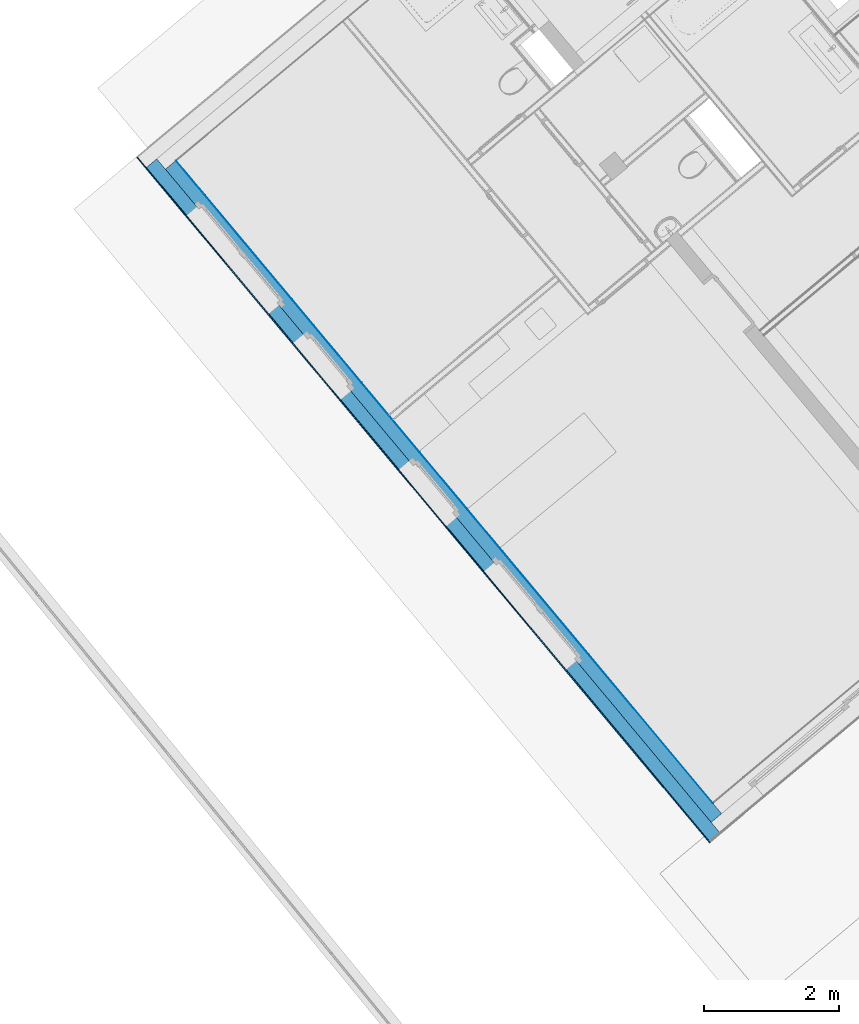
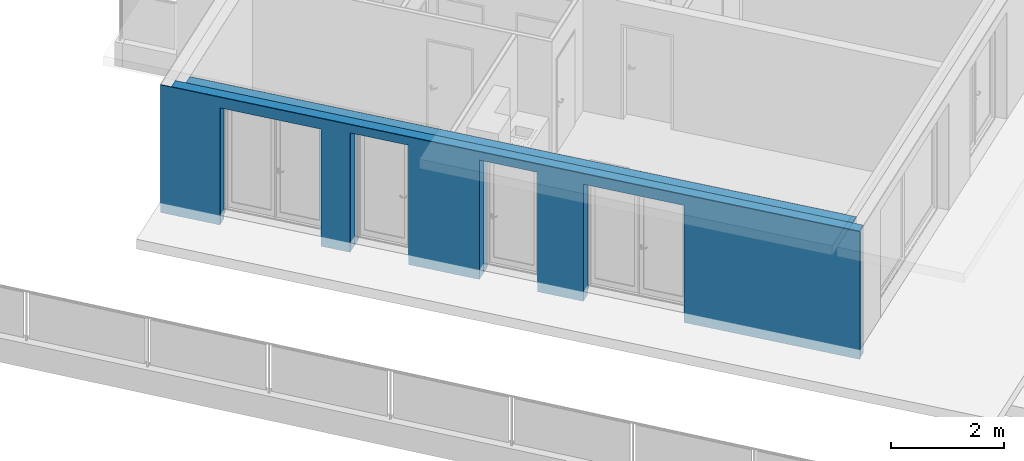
# One storey, part 9 of 67: 4 building element parts, 4 openings, 1 element without a shape of its own.
"""IFC4 building model written with IfcOpenShell, lengths in metres."""

from ifc_helpers import new_model, entity, si_unit, converted_unit, derived_unit, direction, frame, origin_with_axes, place, context, subcontext, project, spatial, polygons, material, type_object, element, aggregate, save


model = new_model("IFC4")

# Units and contexts
model_context = context("Model", 3, precision=1e-05, world=origin_with_axes(), true_north=direction((0.0, 1.0)))
body_context = subcontext(model_context, "Body", "Model", "MODEL_VIEW")
ifc_project = project(units=[si_unit("LENGTHUNIT", "METRE"), si_unit("AREAUNIT", "SQUARE_METRE"), si_unit("VOLUMEUNIT", "CUBIC_METRE"), converted_unit("PLANEANGLEUNIT", "DEGREE", entity("IfcPlaneAngleMeasure", 0.0174532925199), si_unit("PLANEANGLEUNIT", "RADIAN"), dimensions=[0, 0, 0, 0, 0, 0, 0]), converted_unit("TIMEUNIT", "Year", entity("IfcTimeMeasure", 31556926.0), si_unit("TIMEUNIT", "SECOND"), dimensions=[0, 0, 1, 0, 0, 0, 0]), si_unit("MASSUNIT", "GRAM", prefix="KILO"), si_unit("THERMODYNAMICTEMPERATUREUNIT", "DEGREE_CELSIUS"), si_unit("LUMINOUSINTENSITYUNIT", "LUMEN"), si_unit("ENERGYUNIT", "JOULE", prefix="MEGA"), derived_unit("THERMALCONDUCTANCEUNIT", [(si_unit("POWERUNIT", "WATT"), 1), (si_unit("LENGTHUNIT", "METRE"), -1), (si_unit("THERMODYNAMICTEMPERATUREUNIT", "KELVIN"), -1)]), derived_unit("SPECIFICHEATCAPACITYUNIT", [(si_unit("ENERGYUNIT", "JOULE"), 1), (si_unit("MASSUNIT", "GRAM", prefix="KILO"), -1), (si_unit("THERMODYNAMICTEMPERATUREUNIT", "KELVIN"), -1)]), derived_unit("MASSDENSITYUNIT", [(si_unit("MASSUNIT", "GRAM", prefix="KILO"), 1), (si_unit("VOLUMEUNIT", "CUBIC_METRE"), -1)])], contexts=[model_context])

# Site, building, storey
site_placement = place(None, frame((-0.00153261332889, -0.00661245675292, 0.0), z_axis=(0.0, 0.0, 1.0), x_axis=(1.0, 0.0, 0.0)))
site = spatial("IfcSite", under=ifc_project, at=site_placement, Name="Site", CompositionType="ELEMENT")
building_placement = place(site_placement, origin_with_axes())
building = spatial("IfcBuilding", under=site, at=building_placement, Name="Building", CompositionType="ELEMENT")
storey_placement = place(building_placement, frame((0.0, 0.0, -0.22), z_axis=(0.0, 0.0, 1.0), x_axis=(1.0, 0.0, 0.0)))
storey = spatial("IfcBuildingStorey", under=building, at=storey_placement, Name="EG", CompositionType="ELEMENT", Elevation=-0.22)

# Wall, openings, building element parts
wall_type = type_object("IfcWallType", Name="AW EG 420", PredefinedType="NOTDEFINED")
wall_placement = place(storey_placement, frame((-8.68307438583, 19.0183290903, 0.0), z_axis=(0.0, 0.0, 1.0), x_axis=(0.641209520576, -0.767365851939, 0.0)))
wall = element("IfcWall", 1, at=wall_placement, inside=storey, type_object=wall_type, Name="Wand-002", PredefinedType="NOTDEFINED")
opening_1_placement = place(wall_placement, frame((8.93569204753, 0.0, 0.22), z_axis=(0.0, 0.0, 1.0), x_axis=(1.0, 0.0, 0.0)))
element("IfcOpeningElement", 2, at=opening_1_placement, cuts=wall, Name="Tür-002", context=body_context, identifier="Reference", shape_type="Tessellation", body=[
    polygons([(0.95, 0.215, -0.22), (0.95, 0.215, 2.31), (0.95, -6.49731305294, 2.31), (0.95, -6.49731305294, -0.22), (-0.95, 0.215, 2.31), (1.0, 0.215, -0.22), (1.0, 0.215, 2.36), (-1.0, 0.215, 2.36), (-1.0, 0.215, -0.22), (-0.95, 0.215, -0.22), (-0.95, -6.49731305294, 2.31), (-0.95, -6.49731305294, -0.22), (-1.0, 6.91731305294, -0.22), (1.0, 6.91731305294, -0.22), (1.0, 6.91731305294, 2.36), (-1.0, 6.91731305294, 2.36)], [[[1, 2, 3, 4]], [[5, 2, 1, 6, 7, 8, 9, 10]], [[2, 5, 11, 3]], [[11, 12, 4, 3]], [[1, 4, 12, 10, 9, 13, 14, 6]], [[7, 6, 14, 15]], [[8, 7, 15, 16]], [[9, 8, 16, 13]], [[5, 10, 12, 11]], [[15, 14, 13, 16]]], closed=True),
])
opening_2_placement = place(wall_placement, frame((2.08549096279, 0.0, 0.22), z_axis=(0.0, 0.0, 1.0), x_axis=(1.0, 0.0, 0.0)))
element("IfcOpeningElement", 3, at=opening_2_placement, cuts=wall, Name="Tür-002", context=body_context, identifier="Reference", shape_type="Tessellation", body=[
    polygons([(0.95, 0.215, -0.22), (0.95, 0.215, 2.31), (0.95, -6.49731305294, 2.31), (0.95, -6.49731305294, -0.22), (-0.95, 0.215, 2.31), (1.0, 0.215, -0.22), (1.0, 0.215, 2.36), (-1.0, 0.215, 2.36), (-1.0, 0.215, -0.22), (-0.95, 0.215, -0.22), (-0.95, -6.49731305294, 2.31), (-0.95, -6.49731305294, -0.22), (-1.0, 6.91731305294, -0.22), (1.0, 6.91731305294, -0.22), (1.0, 6.91731305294, 2.36), (-1.0, 6.91731305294, 2.36)], [[[1, 2, 3, 4]], [[5, 2, 1, 6, 7, 8, 9, 10]], [[2, 5, 11, 3]], [[11, 12, 4, 3]], [[1, 4, 12, 10, 9, 13, 14, 6]], [[7, 6, 14, 15]], [[8, 7, 15, 16]], [[9, 8, 16, 13]], [[5, 10, 12, 11]], [[15, 14, 13, 16]]], closed=True),
])
opening_3_placement = place(wall_placement, frame((6.57566381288, 0.0, 0.22), z_axis=(0.0, 0.0, 1.0), x_axis=(1.0, 0.0, 0.0)))
element("IfcOpeningElement", 4, at=opening_3_placement, cuts=wall, Name="Tür-001", context=body_context, identifier="Reference", shape_type="Tessellation", body=[
    polygons([(0.55, 0.215, -0.22), (0.55, 0.215, 2.36), (0.55, -6.49731305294, 2.36), (0.55, -6.49731305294, -0.22), (0.55, 6.91731305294, -0.22), (0.55, 6.91731305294, 2.36), (-0.55, 0.215, 2.36), (-0.55, -6.49731305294, 2.36), (-0.55, 6.91731305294, 2.36), (-0.55, -6.49731305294, -0.22), (-0.55, 0.215, -0.22), (-0.55, 6.91731305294, -0.22)], [[[1, 2, 3, 4]], [[2, 1, 5, 6]], [[7, 8, 3, 2, 6, 9]], [[8, 10, 4, 3]], [[1, 4, 10, 11, 12, 5]], [[6, 5, 12, 9]], [[7, 11, 10, 8]], [[11, 7, 9, 12]]], closed=True),
])
opening_4_placement = place(wall_placement, frame((4.13955898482, 0.0, 0.22), z_axis=(0.0, 0.0, 1.0), x_axis=(1.0, 0.0, 0.0)))
element("IfcOpeningElement", 5, at=opening_4_placement, cuts=wall, Name="Tür-001", context=body_context, identifier="Reference", shape_type="Tessellation", body=[
    polygons([(0.55, 0.215, -0.22), (0.55, 0.215, 2.36), (0.55, -6.49731305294, 2.36), (0.55, -6.49731305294, -0.22), (0.55, 6.91731305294, -0.22), (0.55, 6.91731305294, 2.36), (-0.55, 0.215, 2.36), (-0.55, -6.49731305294, 2.36), (-0.55, 6.91731305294, 2.36), (-0.55, -6.49731305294, -0.22), (-0.55, 0.215, -0.22), (-0.55, 6.91731305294, -0.22)], [[[1, 2, 3, 4]], [[2, 1, 5, 6]], [[7, 8, 3, 2, 6, 9]], [[8, 10, 4, 3]], [[1, 4, 10, 11, 12, 5]], [[6, 5, 12, 9]], [[7, 11, 10, 8]], [[11, 7, 9, 12]]], closed=True),
])
ifc_material_1 = material(Name="Zementputz")
building_element_part_1_placement = place(wall_placement, origin_with_axes())
building_element_part_1 = element("IfcBuildingElementPart", 6, at=building_element_part_1_placement, material=ifc_material_1, Name="Zementputz", PredefinedType="NOTDEFINED", context=body_context, shape_type="Tessellation", body=[
    polygons([(3.58955898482, 0.42, 2.58), (3.58955898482, 0.42, 0.0), (3.08549096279, 0.42, 0.0), (3.08549096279, 0.42, 2.58), (1.08549096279, 0.42, 2.58), (1.08549096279, 0.42, 0.0), (0.419999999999, 0.42, 0.0), (0.419999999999, 0.42, 2.76), (12.7874798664, 0.42, 2.76), (12.7874798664, 0.42, 0.0), (9.93569204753, 0.42, 0.0), (9.93569204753, 0.42, 2.58), (7.93569204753, 0.42, 2.58), (7.93569204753, 0.42, 0.0), (7.12566381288, 0.42, 0.0), (7.12566381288, 0.42, 2.58), (6.02566381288, 0.42, 2.58), (6.02566381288, 0.42, 0.0), (4.68955898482, 0.42, 0.0), (4.68955898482, 0.42, 2.58), (3.58955898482, 0.415, 2.58), (3.58955898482, 0.415, 0.0), (3.08549096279, 0.415, 0.0), (3.08549096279, 0.415, 2.58), (1.08549096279, 0.415, 2.58), (1.08549096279, 0.415, 0.0), (0.419999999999, 0.415, 0.0), (0.419999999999, 0.415, 2.76), (12.7874831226, 0.415, 2.76), (12.7874831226, 0.415, 0.0), (9.93569204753, 0.415, 0.0), (9.93569204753, 0.415, 2.58), (7.93569204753, 0.415, 2.58), (7.93569204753, 0.415, 0.0), (7.12566381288, 0.415, 0.0), (7.12566381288, 0.415, 2.58), (6.02566381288, 0.415, 2.58), (6.02566381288, 0.415, 0.0), (4.68955898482, 0.415, 0.0), (4.68955898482, 0.415, 2.58)], [[[1, 2, 3, 4, 5, 6, 7, 8, 9, 10, 11, 12, 13, 14, 15, 16, 17, 18, 19, 20]], [[2, 1, 21, 22]], [[2, 22, 23, 3]], [[23, 24, 4, 3]], [[24, 25, 5, 4]], [[25, 26, 6, 5]], [[27, 7, 6, 26]], [[7, 27, 28, 8]], [[9, 8, 28, 29]], [[10, 9, 29, 30]], [[30, 31, 11, 10]], [[32, 12, 11, 31]], [[33, 13, 12, 32]], [[34, 14, 13, 33]], [[15, 14, 34, 35]], [[15, 35, 36, 16]], [[16, 36, 37, 17]], [[17, 37, 38, 18]], [[39, 19, 18, 38]], [[20, 19, 39, 40]], [[1, 20, 40, 21]], [[40, 39, 38, 37, 36, 35, 34, 33, 32, 31, 30, 29, 28, 27, 26, 25, 24, 23, 22, 21]]], closed=True),
])
ifc_material_2 = material(Name="Stahlbeton Wand")
building_element_part_2_placement = place(wall_placement, origin_with_axes())
building_element_part_2 = element("IfcBuildingElementPart", 7, at=building_element_part_2_placement, material=ifc_material_2, Name="Stahlbeton Wand", PredefinedType="NOTDEFINED", context=body_context, shape_type="Tessellation", body=[
    polygons([(3.58955898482, 0.415, 2.58), (3.58955898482, 0.415, 0.0), (3.08549096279, 0.415, 0.0), (3.08549096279, 0.415, 2.58), (1.08549096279, 0.415, 2.58), (1.08549096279, 0.415, 0.0), (0.414999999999, 0.415, 0.0), (0.414999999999, 0.415, 2.76), (12.987483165, 0.415, 2.76), (12.987483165, 0.415, 0.0), (9.93569204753, 0.415, 0.0), (9.93569204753, 0.415, 2.58), (7.93569204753, 0.415, 2.58), (7.93569204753, 0.415, 0.0), (7.12566381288, 0.415, 0.0), (7.12566381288, 0.415, 2.58), (6.02566381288, 0.415, 2.58), (6.02566381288, 0.415, 0.0), (4.68955898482, 0.415, 0.0), (4.68955898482, 0.415, 2.58), (3.58955898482, 0.215, 2.58), (3.58955898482, 0.215, 0.0), (3.08549096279, 0.215, 0.0), (3.08549096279, 0.215, 2.58), (1.08549096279, 0.215, 2.58), (1.08549096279, 0.215, 0.0), (0.415, 0.215, 0.0), (0.415, 0.215, 2.76), (12.9876134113, 0.215, 2.76), (12.9876134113, 0.215, 0.0), (9.93569204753, 0.215, 0.0), (9.93569204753, 0.215, 2.58), (7.93569204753, 0.215, 2.58), (7.93569204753, 0.215, 0.0), (7.12566381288, 0.215, 0.0), (7.12566381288, 0.215, 2.58), (6.02566381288, 0.215, 2.58), (6.02566381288, 0.215, 0.0), (4.68955898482, 0.215, 0.0), (4.68955898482, 0.215, 2.58)], [[[1, 2, 3, 4, 5, 6, 7, 8, 9, 10, 11, 12, 13, 14, 15, 16, 17, 18, 19, 20]], [[2, 1, 21, 22]], [[2, 22, 23, 3]], [[23, 24, 4, 3]], [[24, 25, 5, 4]], [[25, 26, 6, 5]], [[27, 7, 6, 26]], [[7, 27, 28, 8]], [[9, 8, 28, 29]], [[10, 9, 29, 30]], [[30, 31, 11, 10]], [[32, 12, 11, 31]], [[33, 13, 12, 32]], [[34, 14, 13, 33]], [[15, 14, 34, 35]], [[15, 35, 36, 16]], [[16, 36, 37, 17]], [[17, 37, 38, 18]], [[39, 19, 18, 38]], [[20, 19, 39, 40]], [[1, 20, 40, 21]], [[40, 39, 38, 37, 36, 35, 34, 33, 32, 31, 30, 29, 28, 27, 26, 25, 24, 23, 22, 21]]], closed=True),
])
ifc_material_3 = material(Name="EPS 1")
building_element_part_3_placement = place(wall_placement, origin_with_axes())
building_element_part_3 = element("IfcBuildingElementPart", 8, at=building_element_part_3_placement, material=ifc_material_3, Name="EPS 1", PredefinedType="NOTDEFINED", context=body_context, shape_type="Tessellation", body=[
    polygons([(3.58955898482, 0.215, 2.58), (3.58955898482, 0.215, 0.0), (3.03549096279, 0.215, 0.0), (3.03549096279, 0.215, 2.53), (1.13549096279, 0.215, 2.53), (1.13549096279, 0.215, 0.0), (0.215, 0.215, 0.0), (0.215, 0.215, 2.76), (13.1876134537, 0.215, 2.76), (13.1876134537, 0.215, 0.0), (9.88569204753, 0.215, 0.0), (9.88569204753, 0.215, 2.53), (7.98569204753, 0.215, 2.53), (7.98569204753, 0.215, 0.0), (7.12566381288, 0.215, 0.0), (7.12566381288, 0.215, 2.58), (6.02566381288, 0.215, 2.58), (6.02566381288, 0.215, 0.0), (4.68955898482, 0.215, 0.0), (4.68955898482, 0.215, 2.58), (3.58955898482, 0.015, 2.58), (3.58955898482, 0.015, 0.0), (3.03549096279, 0.015, 0.0), (3.03549096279, 0.015, 2.53), (1.13549096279, 0.015, 2.53), (1.13549096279, 0.015, 0.0), (0.215, 0.015, 0.0), (0.215, 0.015, 2.76), (13.1877437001, 0.015, 2.76), (13.1877437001, 0.015, 0.0), (9.88569204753, 0.015, 0.0), (9.88569204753, 0.015, 2.53), (7.98569204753, 0.015, 2.53), (7.98569204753, 0.015, 0.0), (7.12566381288, 0.015, 0.0), (7.12566381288, 0.015, 2.58), (6.02566381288, 0.015, 2.58), (6.02566381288, 0.015, 0.0), (4.68955898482, 0.015, 0.0), (4.68955898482, 0.015, 2.58)], [[[1, 2, 3, 4, 5, 6, 7, 8, 9, 10, 11, 12, 13, 14, 15, 16, 17, 18, 19, 20]], [[2, 1, 21, 22]], [[2, 22, 23, 3]], [[23, 24, 4, 3]], [[24, 25, 5, 4]], [[25, 26, 6, 5]], [[27, 7, 6, 26]], [[7, 27, 28, 8]], [[9, 8, 28, 29]], [[10, 9, 29, 30]], [[30, 31, 11, 10]], [[32, 12, 11, 31]], [[33, 13, 12, 32]], [[34, 14, 13, 33]], [[15, 14, 34, 35]], [[15, 35, 36, 16]], [[16, 36, 37, 17]], [[17, 37, 38, 18]], [[39, 19, 18, 38]], [[20, 19, 39, 40]], [[1, 20, 40, 21]], [[40, 39, 38, 37, 36, 35, 34, 33, 32, 31, 30, 29, 28, 27, 26, 25, 24, 23, 22, 21]]], closed=True),
])
building_element_part_4_placement = place(wall_placement, origin_with_axes())
building_element_part_4 = element("IfcBuildingElementPart", 9, at=building_element_part_4_placement, material=ifc_material_1, Name="Zementputz", PredefinedType="NOTDEFINED", context=body_context, shape_type="Tessellation", body=[
    polygons([(3.58955898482, 0.015, 2.58), (3.58955898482, 0.015, 0.0), (3.03549096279, 0.015, 0.0), (3.03549096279, 0.015, 2.53), (1.13549096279, 0.015, 2.53), (1.13549096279, 0.015, 0.0), (0.015, 0.015, 0.0), (0.015, 0.015, 2.76), (13.2027437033, 0.015, 2.76), (13.2027437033, 0.015, 0.0), (9.88569204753, 0.015, 0.0), (9.88569204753, 0.015, 2.53), (7.98569204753, 0.015, 2.53), (7.98569204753, 0.015, 0.0), (7.12566381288, 0.015, 0.0), (7.12566381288, 0.015, 2.58), (6.02566381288, 0.015, 2.58), (6.02566381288, 0.015, 0.0), (4.68955898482, 0.015, 0.0), (4.68955898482, 0.015, 2.58), (3.58955898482, 0.0, 2.58), (3.58955898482, 0.0, 0.0), (3.03549096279, 0.0, 0.0), (3.03549096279, 0.0, 2.53), (1.13549096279, 0.0, 2.53), (1.13549096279, 0.0, 0.0), (0.015, 0.0, 0.0), (0.015, 0.0, 2.76), (13.2027534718, 0.0, 2.76), (13.2027534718, 0.0, 0.0), (9.88569204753, 0.0, 0.0), (9.88569204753, 0.0, 2.53), (7.98569204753, 0.0, 2.53), (7.98569204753, 0.0, 0.0), (7.12566381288, 0.0, 0.0), (7.12566381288, 0.0, 2.58), (6.02566381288, 0.0, 2.58), (6.02566381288, 0.0, 0.0), (4.68955898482, 0.0, 0.0), (4.68955898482, 0.0, 2.58)], [[[1, 2, 3, 4, 5, 6, 7, 8, 9, 10, 11, 12, 13, 14, 15, 16, 17, 18, 19, 20]], [[2, 1, 21, 22]], [[2, 22, 23, 3]], [[23, 24, 4, 3]], [[24, 25, 5, 4]], [[25, 26, 6, 5]], [[27, 7, 6, 26]], [[7, 27, 28, 8]], [[9, 8, 28, 29]], [[10, 9, 29, 30]], [[30, 31, 11, 10]], [[32, 12, 11, 31]], [[33, 13, 12, 32]], [[34, 14, 13, 33]], [[15, 14, 34, 35]], [[15, 35, 36, 16]], [[16, 36, 37, 17]], [[17, 37, 38, 18]], [[39, 19, 18, 38]], [[20, 19, 39, 40]], [[1, 20, 40, 21]], [[40, 39, 38, 37, 36, 35, 34, 33, 32, 31, 30, 29, 28, 27, 26, 25, 24, 23, 22, 21]]], closed=True),
])
aggregate(wall, [building_element_part_1, building_element_part_2, building_element_part_3, building_element_part_4])

save(model, "model.ifc")
